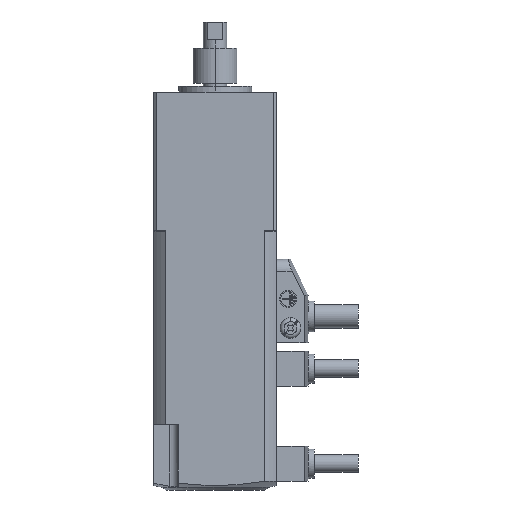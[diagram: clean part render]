
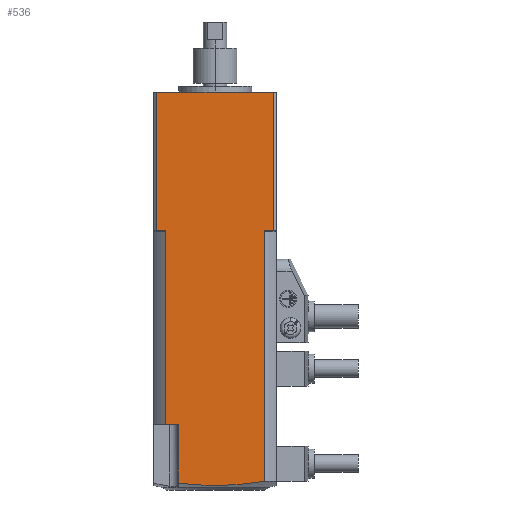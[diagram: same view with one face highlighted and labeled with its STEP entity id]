
A CAD part, left-side view. The second image highlights one B-rep face of the part: STEP entity #536.
In plain terms, the highlighted planar face has unit normal (-1, 0, 0).
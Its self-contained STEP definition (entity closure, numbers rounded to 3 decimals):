
#98 = CARTESIAN_POINT ( 'NONE',  ( -21., 16.891, 88.55 ) ) ;
#141 = CIRCLE ( 'NONE', #2175, 97.77 ) ;
#143 = CARTESIAN_POINT ( 'NONE',  ( -21., 21., 88.85 ) ) ;
#182 = VECTOR ( 'NONE', #5548, 1000. ) ;
#203 = CARTESIAN_POINT ( 'NONE',  ( -21., 20., 6.005 ) ) ;
#220 = CARTESIAN_POINT ( 'NONE',  ( -21., 16.971, 88.55 ) ) ;
#231 = DIRECTION ( 'NONE',  ( 0., -1., 0. ) ) ;
#312 = VECTOR ( 'NONE', #5307, 1000. ) ;
#536 = ADVANCED_FACE ( 'NONE', ( #4011 ), #3887, .F. ) ;
#537 = VECTOR ( 'NONE', #2402, 1000. ) ;
#585 = DIRECTION ( 'NONE',  ( 0., 0., 1. ) ) ;
#604 = LINE ( 'NONE', #2340, #312 ) ;
#784 = CARTESIAN_POINT ( 'NONE',  ( -21., 16.971, 68.5 ) ) ;
#823 = LINE ( 'NONE', #98, #5789 ) ;
#841 = EDGE_CURVE ( 'NONE', #1207, #4161, #6044, .T. ) ;
#849 = DIRECTION ( 'NONE',  ( -1., 0., 0. ) ) ;
#889 = CARTESIAN_POINT ( 'NONE',  ( -21., -16.891, 88.85 ) ) ;
#893 = ORIENTED_EDGE ( 'NONE', *, *, #2314, .F. ) ;
#1083 = CARTESIAN_POINT ( 'NONE',  ( -21., 12.6, 2.322 ) ) ;
#1139 = DIRECTION ( 'NONE',  ( 0., -1., 0. ) ) ;
#1167 = ORIENTED_EDGE ( 'NONE', *, *, #1882, .T. ) ;
#1177 = DIRECTION ( 'NONE',  ( 0., 0., 1. ) ) ;
#1199 = ORIENTED_EDGE ( 'NONE', *, *, #1254, .F. ) ;
#1204 = DIRECTION ( 'NONE',  ( 0., 0., -1. ) ) ;
#1207 = VERTEX_POINT ( 'NONE', #889 ) ;
#1239 = VERTEX_POINT ( 'NONE', #4281 ) ;
#1254 = EDGE_CURVE ( 'NONE', #2214, #3331, #4223, .T. ) ;
#1364 = ORIENTED_EDGE ( 'NONE', *, *, #5998, .T. ) ;
#1378 = CARTESIAN_POINT ( 'NONE',  ( -21., -16.971, 2.991 ) ) ;
#1484 = EDGE_CURVE ( 'NONE', #5675, #4161, #1605, .T. ) ;
#1531 = ORIENTED_EDGE ( 'NONE', *, *, #4679, .F. ) ;
#1605 = LINE ( 'NONE', #2948, #5418 ) ;
#1623 = VECTOR ( 'NONE', #5530, 1000. ) ;
#1715 = CARTESIAN_POINT ( 'NONE',  ( -21., 21., 136.1 ) ) ;
#1721 = VECTOR ( 'NONE', #1204, 1000. ) ;
#1795 = VERTEX_POINT ( 'NONE', #3253 ) ;
#1849 = CARTESIAN_POINT ( 'NONE',  ( -21., -16.971, 88.55 ) ) ;
#1882 = EDGE_CURVE ( 'NONE', #2063, #1975, #604, .T. ) ;
#1929 = VERTEX_POINT ( 'NONE', #1378 ) ;
#1955 = CARTESIAN_POINT ( 'NONE',  ( -21., 16.971, 68.5 ) ) ;
#1975 = VERTEX_POINT ( 'NONE', #2883 ) ;
#2063 = VERTEX_POINT ( 'NONE', #2927 ) ;
#2091 = ORIENTED_EDGE ( 'NONE', *, *, #5312, .T. ) ;
#2175 = AXIS2_PLACEMENT_3D ( 'NONE', #3730, #849, #4216 ) ;
#2214 = VERTEX_POINT ( 'NONE', #3071 ) ;
#2260 = LINE ( 'NONE', #220, #5925 ) ;
#2278 = DIRECTION ( 'NONE',  ( 0., 0., -1. ) ) ;
#2314 = EDGE_CURVE ( 'NONE', #1239, #6129, #6164, .T. ) ;
#2330 = CARTESIAN_POINT ( 'NONE',  ( -21., 16.971, 88.55 ) ) ;
#2337 = EDGE_LOOP ( 'NONE', ( #4448, #3199, #4235, #4785, #5355, #1167, #5531, #4282, #2091, #1199, #1364, #3404, #1531, #893 ) ) ;
#2340 = CARTESIAN_POINT ( 'NONE',  ( -21., 21., 88.85 ) ) ;
#2402 = DIRECTION ( 'NONE',  ( 0., 1., 0. ) ) ;
#2465 = DIRECTION ( 'NONE',  ( 1., 0., 0. ) ) ;
#2552 = CARTESIAN_POINT ( 'NONE',  ( -21., 16.971, 22.5 ) ) ;
#2576 = EDGE_CURVE ( 'NONE', #1795, #1975, #823, .T. ) ;
#2578 = VERTEX_POINT ( 'NONE', #4366 ) ;
#2620 = CARTESIAN_POINT ( 'NONE',  ( -21., -20., 88.85 ) ) ;
#2848 = LINE ( 'NONE', #203, #4251 ) ;
#2883 = CARTESIAN_POINT ( 'NONE',  ( -21., 16.891, 88.85 ) ) ;
#2927 = CARTESIAN_POINT ( 'NONE',  ( -21., 20., 88.85 ) ) ;
#2948 = CARTESIAN_POINT ( 'NONE',  ( -21., -20., 6.005 ) ) ;
#2959 = EDGE_CURVE ( 'NONE', #3925, #1929, #141, .T. ) ;
#3055 = DIRECTION ( 'NONE',  ( 0., 0., -1. ) ) ;
#3071 = CARTESIAN_POINT ( 'NONE',  ( -21., 12.6, 22.5 ) ) ;
#3199 = ORIENTED_EDGE ( 'NONE', *, *, #841, .T. ) ;
#3253 = CARTESIAN_POINT ( 'NONE',  ( -21., 16.891, 88.55 ) ) ;
#3331 = VERTEX_POINT ( 'NONE', #2552 ) ;
#3404 = ORIENTED_EDGE ( 'NONE', *, *, #2959, .T. ) ;
#3584 = LINE ( 'NONE', #4436, #5995 ) ;
#3592 = CARTESIAN_POINT ( 'NONE',  ( -21., 16.971, 88.55 ) ) ;
#3730 = CARTESIAN_POINT ( 'NONE',  ( -21., 0., 99.277 ) ) ;
#3759 = VERTEX_POINT ( 'NONE', #2330 ) ;
#3887 = PLANE ( 'NONE',  #4707 ) ;
#3924 = CARTESIAN_POINT ( 'NONE',  ( -21., -20., 136.1 ) ) ;
#3925 = VERTEX_POINT ( 'NONE', #1083 ) ;
#4011 = FACE_OUTER_BOUND ( 'NONE', #2337, .T. ) ;
#4023 = LINE ( 'NONE', #4138, #182 ) ;
#4083 = CARTESIAN_POINT ( 'NONE',  ( -21., -16.971, 68.5 ) ) ;
#4110 = DIRECTION ( 'NONE',  ( 0., -1., 0. ) ) ;
#4138 = CARTESIAN_POINT ( 'NONE',  ( -21., 12.6, 22.5 ) ) ;
#4161 = VERTEX_POINT ( 'NONE', #2620 ) ;
#4216 = DIRECTION ( 'NONE',  ( 0., 1., 0. ) ) ;
#4223 = LINE ( 'NONE', #5257, #537 ) ;
#4235 = ORIENTED_EDGE ( 'NONE', *, *, #1484, .F. ) ;
#4248 = EDGE_CURVE ( 'NONE', #3759, #1795, #2260, .T. ) ;
#4251 = VECTOR ( 'NONE', #1177, 1000. ) ;
#4281 = CARTESIAN_POINT ( 'NONE',  ( -21., -16.891, 88.55 ) ) ;
#4282 = ORIENTED_EDGE ( 'NONE', *, *, #4248, .F. ) ;
#4366 = CARTESIAN_POINT ( 'NONE',  ( -21., 20., 136.1 ) ) ;
#4436 = CARTESIAN_POINT ( 'NONE',  ( -21., -16.891, 88.55 ) ) ;
#4448 = ORIENTED_EDGE ( 'NONE', *, *, #4566, .F. ) ;
#4566 = EDGE_CURVE ( 'NONE', #1207, #1239, #3584, .T. ) ;
#4590 = VECTOR ( 'NONE', #231, 1000. ) ;
#4629 = LINE ( 'NONE', #784, #5752 ) ;
#4679 = EDGE_CURVE ( 'NONE', #6129, #1929, #5377, .T. ) ;
#4707 = AXIS2_PLACEMENT_3D ( 'NONE', #1955, #2465, #5814 ) ;
#4760 = VECTOR ( 'NONE', #1139, 1000. ) ;
#4785 = ORIENTED_EDGE ( 'NONE', *, *, #5970, .F. ) ;
#4819 = DIRECTION ( 'NONE',  ( 0., 0., -1. ) ) ;
#5195 = EDGE_CURVE ( 'NONE', #2063, #2578, #2848, .T. ) ;
#5257 = CARTESIAN_POINT ( 'NONE',  ( -21., 16.971, 22.5 ) ) ;
#5307 = DIRECTION ( 'NONE',  ( 0., -1., 0. ) ) ;
#5312 = EDGE_CURVE ( 'NONE', #3759, #3331, #4629, .T. ) ;
#5355 = ORIENTED_EDGE ( 'NONE', *, *, #5195, .F. ) ;
#5377 = LINE ( 'NONE', #4083, #1721 ) ;
#5418 = VECTOR ( 'NONE', #4819, 1000. ) ;
#5438 = LINE ( 'NONE', #1715, #1623 ) ;
#5530 = DIRECTION ( 'NONE',  ( 0., -1., 0. ) ) ;
#5531 = ORIENTED_EDGE ( 'NONE', *, *, #2576, .F. ) ;
#5548 = DIRECTION ( 'NONE',  ( 0., 0., -1. ) ) ;
#5675 = VERTEX_POINT ( 'NONE', #3924 ) ;
#5752 = VECTOR ( 'NONE', #2278, 1000. ) ;
#5789 = VECTOR ( 'NONE', #585, 1000. ) ;
#5814 = DIRECTION ( 'NONE',  ( 0., 1., 0. ) ) ;
#5925 = VECTOR ( 'NONE', #4110, 1000. ) ;
#5970 = EDGE_CURVE ( 'NONE', #2578, #5675, #5438, .T. ) ;
#5995 = VECTOR ( 'NONE', #3055, 1000. ) ;
#5998 = EDGE_CURVE ( 'NONE', #2214, #3925, #4023, .T. ) ;
#6044 = LINE ( 'NONE', #143, #4760 ) ;
#6129 = VERTEX_POINT ( 'NONE', #1849 ) ;
#6164 = LINE ( 'NONE', #3592, #4590 ) ;
